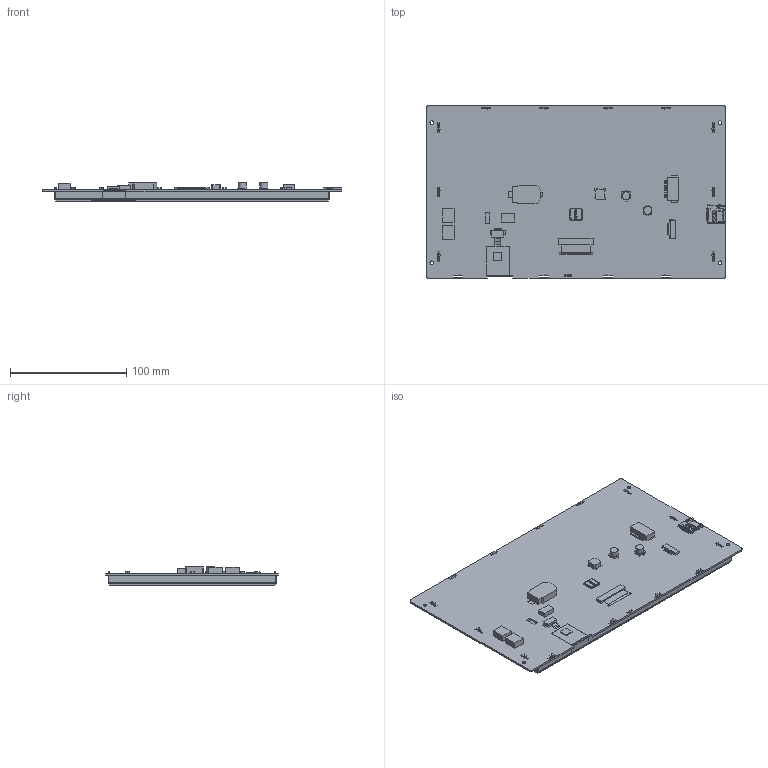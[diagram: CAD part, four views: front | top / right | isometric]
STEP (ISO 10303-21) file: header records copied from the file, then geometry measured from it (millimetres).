
FILE_DESCRIPTION(/* description */ (''),/* implementation_level */ '2;1');
FILE_NAME(/* name */ '',/* time_stamp */ '2021-07-24T15:13:38+08:00',/* author */ (''),/* organization */ (''),/* preprocessor_version */ 'ST-DEVELOPER v11',/* originating_system */ 'SIEMENS PLM Software NX 7.5',/* authorisation */ '');
FILE_SCHEMA (('AP203_CONFIGURATION_CONTROLLED_3D_DESIGN_OF_MECHANICAL_PARTS_AND_ASSEMBLIES_MIM_LF'));
Products named in the file (1): SDWb101T84C
Bounding box: 257.8 x 148.1 x 15.72 mm (x, y, z)
Volume: 127143.5 mm3; surface area: 232940.8 mm2
Topology: 24 solids, 24 shells, 2602 faces, 7703 edges, 5363 vertices
Faces by surface type: plane 2123, cylinder 471, bspline 7, cone 1
Full cylindrical faces by diameter (mm): 3.2 x4, 6.776 x2
Entity records: 89343 total; most frequent: CARTESIAN_POINT 16021, ORIENTED_EDGE 14892, DIRECTION 13722, EDGE_CURVE 7446, LINE 6674, VECTOR 6674, VERTEX_POINT 4888, AXIS2_PLACEMENT_3D 3524
